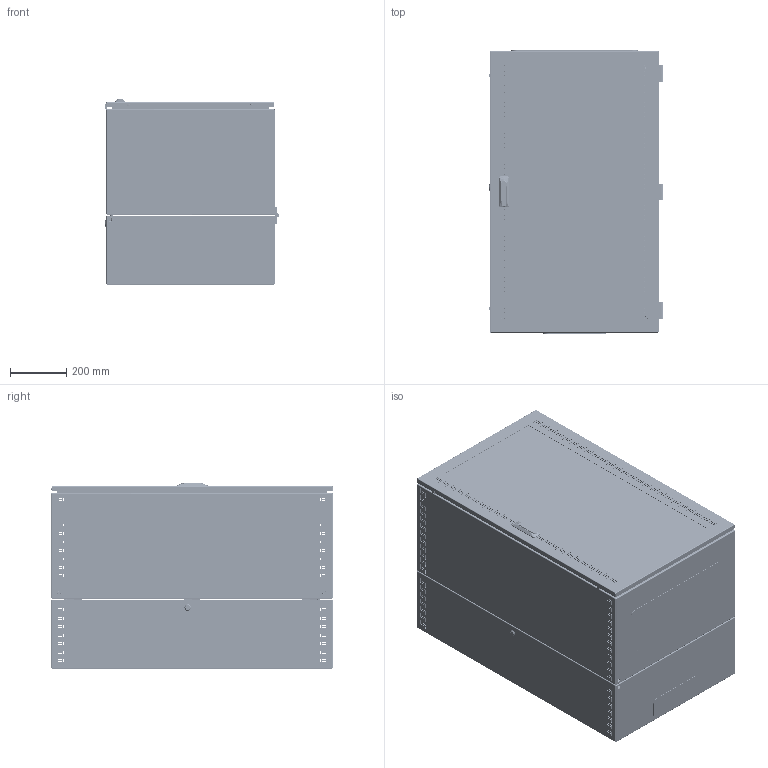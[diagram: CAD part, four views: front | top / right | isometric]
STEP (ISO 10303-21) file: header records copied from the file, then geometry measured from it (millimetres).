
FILE_DESCRIPTION (( 'STEP AP203' ), '1' );
FILE_NAME ('R5STI2065GS.STEP', '2019-07-16T12:26:50', ( '' ), ( '' ), 'SwSTEP 2.0', 'SolidWorks 2017', '' );
FILE_SCHEMA (( 'CONFIG_CONTROL_DESIGN' ));
Length unit declared in the file: millimetre
Products named in the file (51): 4.8x13 DIN 7981 (R5A07)_straight; AC00C112; Ì6õ12-A5100231_straight; M6 art.MGR-MKO-0625_2洵; Ì6õ20-A5100001_straight; M6x12-DIN 6921_stright; M6x10-A1100004_straight; PF 7,5x15 door STI_1000x0600; RB.0692.03.00.0 C縫-03 (1000x600); RB.0692.02.01.0; RB.0692.01.00.0 C縫-03 (1000x600x400); M6-DIN 6923 (CM100600)_straight; AC00C401_AC00C401; Handle 308 Mesan; Glass STI_1000x0600; AC00C061_AC00C061; RB.0692.02.00.0 C縫-03 (1000x600x400); RB.0374.03.01.0; Lock 20x17,5x90 Ruslock; AC00C380; RB.0374.06.00.0 捘_-07 (1000x600 glass); Glue STI_1000x0600; RB.0374.04.01.0; Hinge M8 60x60 Ruslock; RB.0374.03.00.0 CÁ; Nut 20x17,5x90 Ruslock; R5STI2065GS; RB.0374.00.01.0_-00 (400); Handle Mesan (part 1); RB.0374.04.00.0 CÁ; M8-DIN 6923 (CM100800)_stright; RB.0048.02.01.0; MirrorRB.0374.00.01.0_-00 (400)<As Machined>; Handle Mesan (part 2); RB.0374.05.01.0_-07 (1000x600 glass); AC00C399; RB.0692.04.00.0 捘_-03 (1000x600); MirrorMirrorRB.0374.00.01.0_-00 (400)<As Machined><As Machined>; Catch Mesan; AC00C398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
Assembly tree (164 placements, depth 4):
  R5STI2065GS
    RB.0692.04.00.0 捘_-03 (1000x600)
      RB.0692.03.00.0 C縫-03 (1000x600)
        RB.0692.03.01.0_-03 (1000x600)
        RB.0374.01.02.0_-03 (1000x600)
        Ì6õ12-A5100231_straight  x2
      AC00C061_AC00C061  x4
      RB.0374.04.00.0 CÁ  x2
        RB.0374.04.01.0
        Ì6õ12-A5100231_straight
      M6-DIN 6923 (CM100600)_straight  x8
      Lock 20x17,5x90 Ruslock
        Lock 20x17,5x90 Ruslock
        Nut 20x17,5x90 Ruslock
    RB.0692.02.00.0 C縫-03 (1000x600x400)
      RB.0692.01.00.0 C縫-03 (1000x600x400)
        RB.0692.01.01.0_-03 (1000x600x400)
        RB.0692.01.02.0_-03 (1000x600)
        Ì6õ20-A5100001_straight  x4
        Ì6õ12-A5100231_straight  x12
      RB.0374.03.00.0 CÁ  x2
        RB.0374.03.01.0
        Ì6õ12-A5100231_straight
      RB.0048.02.01.0  x2
      AC00C399  x2
      M4x8 GOST 17475-80 (DIN 965)_straight  x4
      AC00C383  x2
      AC00C061_AC00C061  x8
      M6-DIN 6923 (CM100600)_straight  x8
      M6 art.MGR-MKO-0625_2洵  x2
      RB.0692.02.01.0  x2
    Hinge M8 60x60 Ruslock  x6
    M8-DIN 6923 (CM100800)_stright  x12
    RB.0374.06.00.0 捘_-07 (1000x600 glass)
      RB.0374.05.00.0 捘_-07 (1000x600 glass)
        RB.0374.05.01.0_-07 (1000x600 glass)
        AC00C398  x2
        Ì6õ12-A5100231_straight  x2
      AC00C112  x4
      AC00C061_AC00C061  x2
      PF 7,5x15 door STI_1000x0600
      Glass STI_1000x0600
      Glue STI_1000x0600
      Handle 308 Mesan
        Handle Mesan (part 1)
        Handle Mesan (part 2)
        Catch Mesan
        Handle Mesan (part 3)
        4.8x13 DIN 7981 (R5A07)_straight  x3
        M6x10-A1100004_straight
    RB.0374.00.01.0_-00 (400)
    MirrorRB.0374.00.01.0_-00 (400)<As Machined>  x2
    MirrorMirrorRB.0374.00.01.0_-00 (400)<As Machined><As Machined>
    RB.0374.00.02.0_-03 (20U)  x2
    RB.0374.00.02.0 mirror_-07 (20U)  x2
    M6-DIN 6923 (CM100600)_straight  x16
    M6x12-DIN 6921_stright  x8
    AC00C401_AC00C401  x2
    AC00C380  x2
Bounding box: 620 x 1003 x 662.96 mm (x, y, z)
Volume: 7406865 mm3; surface area: 8546154 mm2
Topology: 225 solids, 225 shells, 10910 faces, 28503 edges, 18347 vertices
Faces by surface type: plane 6683, cylinder 1793, bspline 1322, cone 850, torus 234, sphere 28
Entity records: 220807 total; most frequent: CARTESIAN_POINT 63786, ORIENTED_EDGE 31878, DIRECTION 27374, EDGE_CURVE 15939, LINE 12612, VECTOR 12612, VERTEX_POINT 10361, EDGE_LOOP 7598
